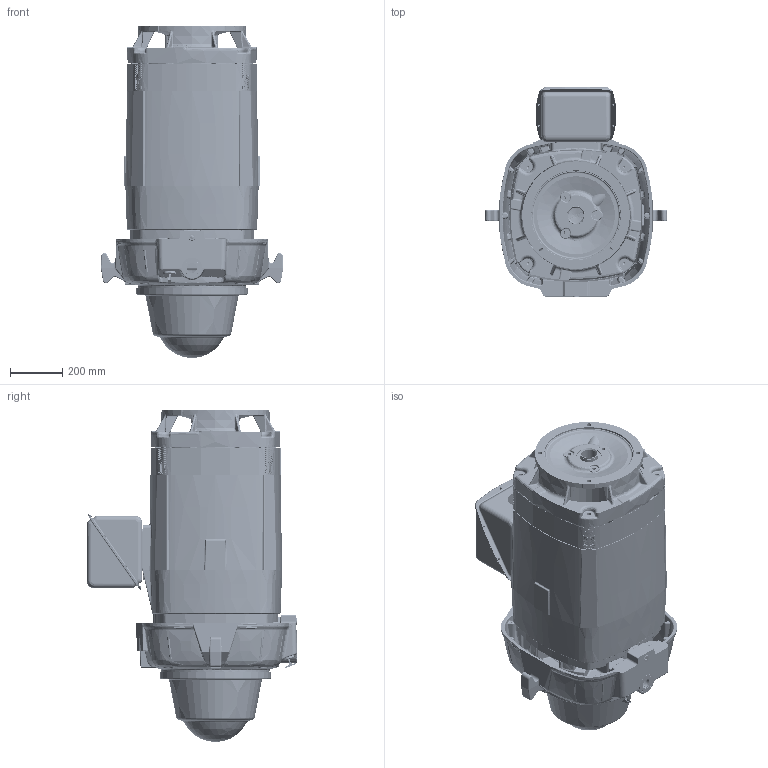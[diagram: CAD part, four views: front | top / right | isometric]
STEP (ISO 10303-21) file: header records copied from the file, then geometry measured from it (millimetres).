
FILE_DESCRIPTION((''),'2;1');
FILE_NAME('440_RU_165_BD_STL_ASM','2019-09-06T09:44:07',('NMC2304'),('Nidec Motor Corporation'),'CREO PARAMETRIC BY PTC INC, 2018020','CREO PARAMETRIC BY PTC INC, 2018020','');
FILE_SCHEMA(('CONFIG_CONTROL_DESIGN'));
Products named in the file (15): 2070444; 2070594; 2086286-000; 0988193; 0989210; 2079261; 0582109; 0132591; 0189843; 2050051-OBB; 2050016; 2050051-OBC; 2050017; HOLLOW_STUB; 440_RU_165_BD_STL_ASM
Assembly tree (14 placements, depth 2):
  440_RU_165_BD_STL_ASM
    2070444
    2070594
    2086286-000
    0988193
    0989210
    2079261
    0582109
    0132591
    0189843
    2050051-OBB
    2050016
    2050051-OBC
    2050017
    HOLLOW_STUB
Bounding box: 698.77 x 805.48 x 1272.36 mm (x, y, z)
Volume: 39132103.8 mm3; surface area: 8082581.8 mm2
Topology: 14 solids, 47 shells, 8847 faces, 21855 edges, 13052 vertices
Faces by surface type: bspline 4378, cylinder 1561, plane 1441, torus 685, cone 434, sphere 323, extrusion 25
Entity records: 413878 total; most frequent: CARTESIAN_POINT 235596, ORIENTED_EDGE 43408, DIRECTION 27425, EDGE_CURVE 21771, VERTEX_POINT 13052, AXIS2_PLACEMENT_3D 10917, B_SPLINE_CURVE_WITH_KNOTS 9796, EDGE_LOOP 9614
